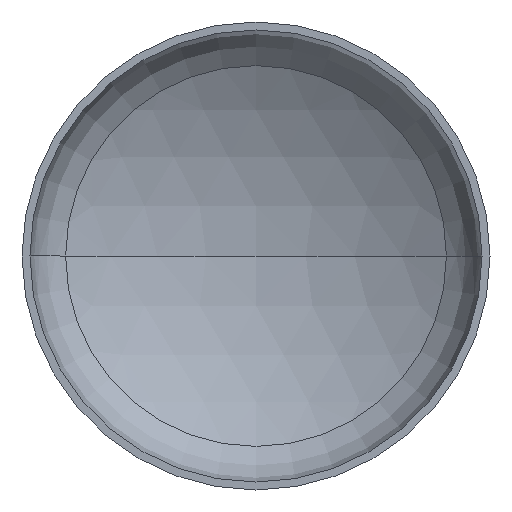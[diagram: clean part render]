
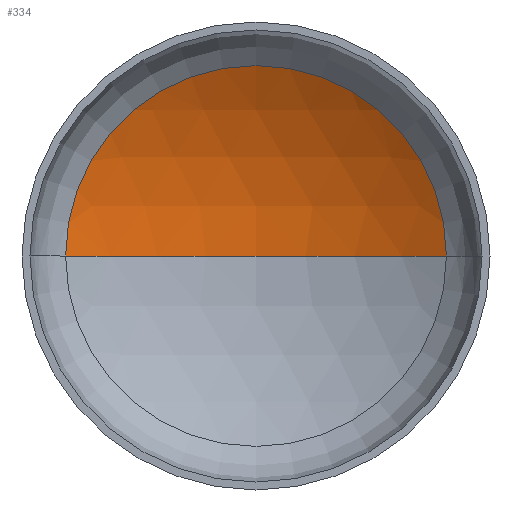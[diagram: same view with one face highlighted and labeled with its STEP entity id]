
A CAD part, front view. The second image highlights one B-rep face of the part: STEP entity #334.
In plain terms, the highlighted spherical face has radius 800 mm.
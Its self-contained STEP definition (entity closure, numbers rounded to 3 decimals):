
#1 = DIRECTION ( 'NONE',  ( -1., 0., 0. ) ) ;
#4 = DIRECTION ( 'NONE',  ( 1., 0., 0. ) ) ;
#8 = EDGE_LOOP ( 'NONE', ( #208, #181, #141 ) ) ;
#9 = DIRECTION ( 'NONE',  ( 0., 0., 1. ) ) ;
#10 = CARTESIAN_POINT ( 'NONE',  ( 0., -500.375, 0. ) ) ;
#21 = AXIS2_PLACEMENT_3D ( 'NONE', #10, #9, #4 ) ;
#22 = AXIS2_PLACEMENT_3D ( 'NONE', #245, #401, #1 ) ;
#25 = AXIS2_PLACEMENT_3D ( 'NONE', #200, #158, #161 ) ;
#40 = VERTEX_POINT ( 'NONE', #282 ) ;
#61 = AXIS2_PLACEMENT_3D ( 'NONE', #120, #90, #129 ) ;
#65 = CIRCLE ( 'NONE', #25, 406.822 ) ;
#69 = EDGE_CURVE ( 'NONE', #281, #40, #65, .T. ) ;
#70 = EDGE_CURVE ( 'NONE', #124, #281, #375, .T. ) ;
#71 = EDGE_CURVE ( 'NONE', #124, #40, #314, .T. ) ;
#90 = DIRECTION ( 'NONE',  ( 0., 0., -1. ) ) ;
#120 = CARTESIAN_POINT ( 'NONE',  ( 0., -500.375, 0. ) ) ;
#124 = VERTEX_POINT ( 'NONE', #360 ) ;
#129 = DIRECTION ( 'NONE',  ( -1., 0., 0. ) ) ;
#141 = ORIENTED_EDGE ( 'NONE', *, *, #69, .T. ) ;
#158 = DIRECTION ( 'NONE',  ( 0., -1., 0. ) ) ;
#161 = DIRECTION ( 'NONE',  ( 1., 0., 0. ) ) ;
#181 = ORIENTED_EDGE ( 'NONE', *, *, #70, .T. ) ;
#200 = CARTESIAN_POINT ( 'NONE',  ( 0., 188.462, 0. ) ) ;
#208 = ORIENTED_EDGE ( 'NONE', *, *, #71, .F. ) ;
#217 = FACE_OUTER_BOUND ( 'NONE', #8, .T. ) ;
#241 = CARTESIAN_POINT ( 'NONE',  ( 406.822, 188.462, 0. ) ) ;
#245 = CARTESIAN_POINT ( 'NONE',  ( 0., -500.375, 0. ) ) ;
#281 = VERTEX_POINT ( 'NONE', #241 ) ;
#282 = CARTESIAN_POINT ( 'NONE',  ( -406.822, 188.462, 0. ) ) ;
#314 = CIRCLE ( 'NONE', #21, 800. ) ;
#334 = ADVANCED_FACE ( 'NONE', ( #217 ), #356, .F. ) ;
#356 = SPHERICAL_SURFACE ( 'NONE', #61, 800. ) ;
#360 = CARTESIAN_POINT ( 'NONE',  ( 0., 299.625, 0. ) ) ;
#375 = CIRCLE ( 'NONE', #22, 800. ) ;
#401 = DIRECTION ( 'NONE',  ( 0., 0., -1. ) ) ;
